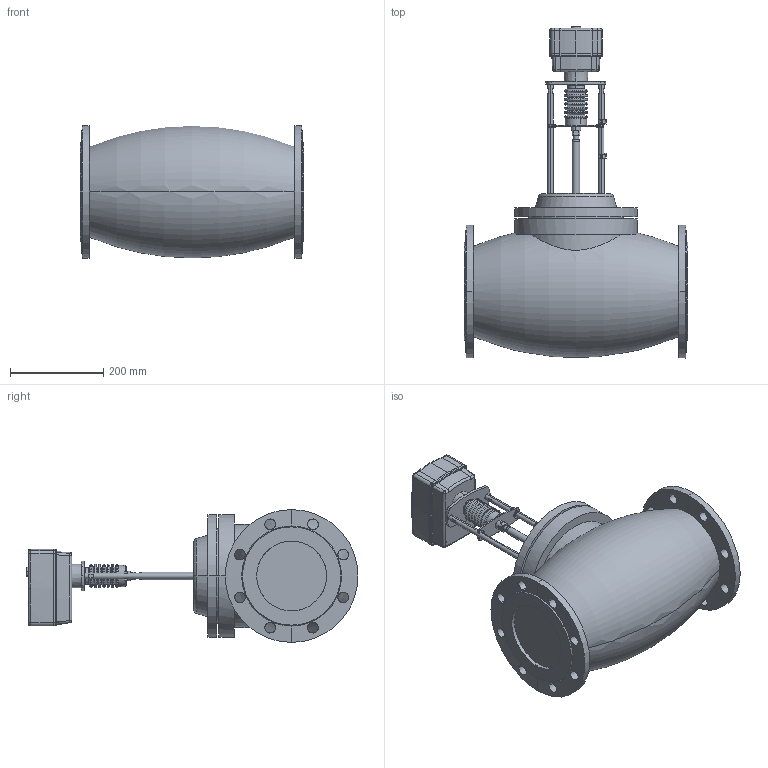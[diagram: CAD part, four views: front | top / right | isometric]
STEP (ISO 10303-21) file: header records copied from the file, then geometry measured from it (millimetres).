
FILE_DESCRIPTION (( 'STEP AP214' ), '1' );
FILE_NAME ('TRV-150-X-120.STEP', '2025-12-12T06:32:07', ( '' ), ( '' ), 'SwSTEP 2.0', 'SolidWorks 2023', '' );
FILE_SCHEMA (( 'AUTOMOTIVE_DESIGN' ));
Length unit declared in the file: millimetre
Products named in the file (1): TRV-150-X-120
Bounding box: 480 x 712.58 x 285 mm (x, y, z)
Volume: 29893343.7 mm3; surface area: 882925.1 mm2
Topology: 2 solids, 3 shells, 399 faces, 996 edges, 624 vertices
Faces by surface type: plane 146, cylinder 125, cone 60, torus 46, bspline 18, sphere 4
Entity records: 18602 total; most frequent: CARTESIAN_POINT 9057, ORIENTED_EDGE 1992, DIRECTION 1983, EDGE_CURVE 996, AXIS2_PLACEMENT_3D 773, VERTEX_POINT 624, EDGE_LOOP 462, LINE 437
